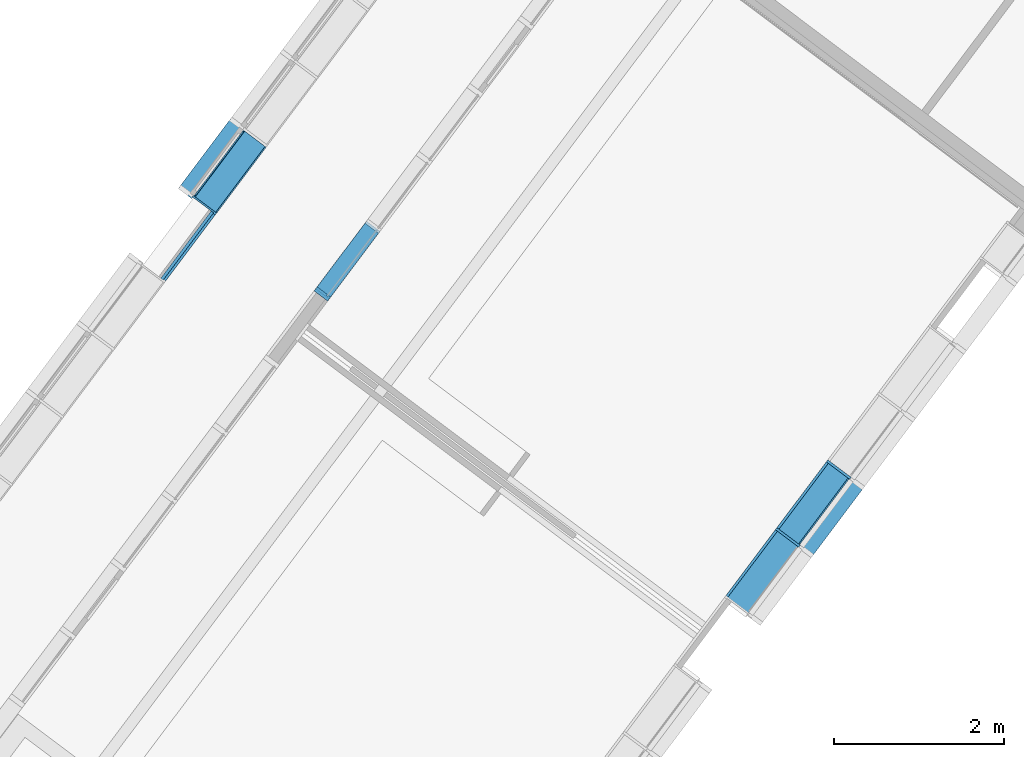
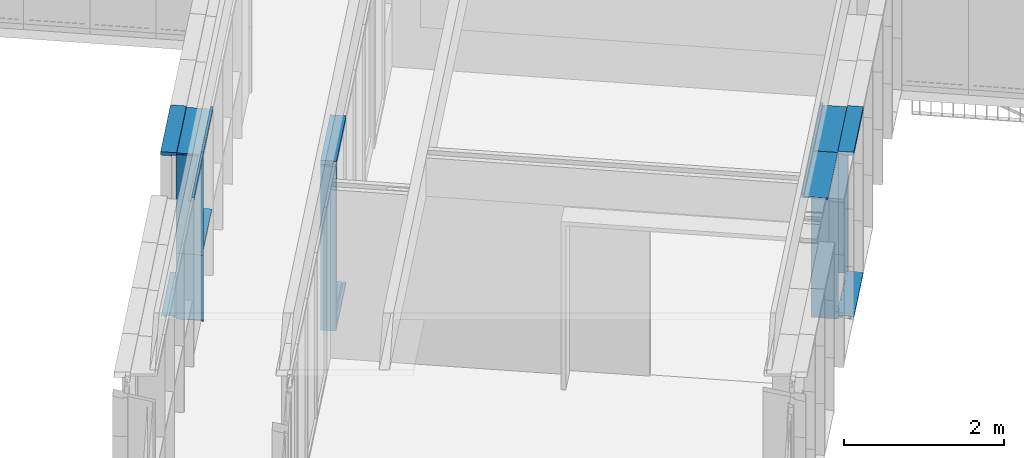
# One storey, part 50 of 243: 16 members, 5 elements without a shape of their own.
"""IFC2X3 building model written with IfcOpenShell, lengths in metres."""

from ifc_helpers import new_model, entity, si_unit, converted_unit, derived_unit, direction, frame, frame_2d, origin, place, context, subcontext, project, spatial, polyline, circle_curve, parameter, trimmed, segment, composite_curve, rectangle, outline, extrude, source, transform, mapped, material, type_object, type_shapes, element, aggregate, save


model = new_model("IFC2X3")

# Units and contexts
model_context = context("Model", 3, precision=1e-05, world=origin(), true_north=direction((6.123031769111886e-17, 1.0)))
body_context = subcontext(model_context, "Body", "Model", "MODEL_VIEW")
ifc_project = project(units=[si_unit("LENGTHUNIT", "METRE"), si_unit("AREAUNIT", "SQUARE_METRE"), si_unit("VOLUMEUNIT", "CUBIC_METRE"), converted_unit("PLANEANGLEUNIT", "DEGREE", entity("IfcRatioMeasure", 0.017453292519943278), si_unit("PLANEANGLEUNIT", "RADIAN"), dimensions=[0, 0, 0, 0, 0, 0, 0]), si_unit("MASSUNIT", "GRAM", prefix="KILO"), derived_unit("MASSDENSITYUNIT", [(si_unit("MASSUNIT", "GRAM", prefix="KILO"), 1), (si_unit("LENGTHUNIT", "METRE"), -3)]), derived_unit("IONCONCENTRATIONUNIT", [(si_unit("MASSUNIT", "GRAM", prefix="KILO"), 1), (si_unit("LENGTHUNIT", "METRE"), -3)]), derived_unit("MOMENTOFINERTIAUNIT", [(si_unit("LENGTHUNIT", "METRE"), 4)]), si_unit("TIMEUNIT", "SECOND"), si_unit("FREQUENCYUNIT", "HERTZ"), si_unit("THERMODYNAMICTEMPERATUREUNIT", "DEGREE_CELSIUS"), derived_unit("THERMALTRANSMITTANCEUNIT", [(si_unit("MASSUNIT", "GRAM", prefix="KILO"), 1), (si_unit("THERMODYNAMICTEMPERATUREUNIT", "KELVIN"), -1), (si_unit("TIMEUNIT", "SECOND"), -3)]), derived_unit("THERMALCONDUCTANCEUNIT", [(si_unit("MASSUNIT", "GRAM", prefix="KILO"), 1), (si_unit("THERMODYNAMICTEMPERATUREUNIT", "KELVIN"), -1), (si_unit("TIMEUNIT", "SECOND"), -3), (si_unit("LENGTHUNIT", "METRE"), 1)]), derived_unit("VOLUMETRICFLOWRATEUNIT", [(si_unit("LENGTHUNIT", "METRE"), 3), (si_unit("TIMEUNIT", "SECOND"), -1)]), derived_unit("MASSFLOWRATEUNIT", [(si_unit("MASSUNIT", "GRAM", prefix="KILO"), 1), (si_unit("TIMEUNIT", "SECOND"), -1)]), derived_unit("ROTATIONALFREQUENCYUNIT", [(si_unit("TIMEUNIT", "SECOND"), -1)]), si_unit("ELECTRICCURRENTUNIT", "AMPERE"), si_unit("ELECTRICVOLTAGEUNIT", "VOLT"), si_unit("POWERUNIT", "WATT"), si_unit("FORCEUNIT", "NEWTON", prefix="KILO"), si_unit("ILLUMINANCEUNIT", "LUX"), si_unit("LUMINOUSFLUXUNIT", "LUMEN"), si_unit("LUMINOUSINTENSITYUNIT", "CANDELA"), derived_unit("USERDEFINED", [(si_unit("MASSUNIT", "GRAM", prefix="KILO"), -1), (si_unit("LENGTHUNIT", "METRE"), -2), (si_unit("TIMEUNIT", "SECOND"), 3), (si_unit("LUMINOUSFLUXUNIT", "LUMEN"), 1)]), derived_unit("USERDEFINED", [(si_unit("MASSUNIT", "GRAM", prefix="KILO"), 1), (si_unit("TIMEUNIT", "SECOND"), -3), (si_unit("LENGTHUNIT", "METRE"), 3), (si_unit("ELECTRICCURRENTUNIT", "AMPERE"), -2)]), derived_unit("SOUNDPOWERUNIT", [(si_unit("MASSUNIT", "GRAM", prefix="KILO"), 1), (si_unit("TIMEUNIT", "SECOND"), -3), (si_unit("LENGTHUNIT", "METRE"), 2)]), derived_unit("SOUNDPRESSUREUNIT", [(si_unit("MASSUNIT", "GRAM", prefix="KILO"), 1), (si_unit("LENGTHUNIT", "METRE"), -1), (si_unit("TIMEUNIT", "SECOND"), -2)]), derived_unit("LINEARVELOCITYUNIT", [(si_unit("LENGTHUNIT", "METRE"), 1), (si_unit("TIMEUNIT", "SECOND"), -1)]), si_unit("PRESSUREUNIT", "PASCAL"), derived_unit("USERDEFINED", [(si_unit("MASSUNIT", "GRAM", prefix="KILO"), 1), (si_unit("LENGTHUNIT", "METRE"), -2), (si_unit("TIMEUNIT", "SECOND"), -2)]), derived_unit("LINEARFORCEUNIT", [(si_unit("MASSUNIT", "GRAM", prefix="KILO"), 1), (si_unit("TIMEUNIT", "SECOND"), -2)]), derived_unit("PLANARFORCEUNIT", [(si_unit("MASSUNIT", "GRAM", prefix="KILO"), 1), (si_unit("LENGTHUNIT", "METRE"), -1), (si_unit("TIMEUNIT", "SECOND"), -2)]), derived_unit("SPECIFICHEATCAPACITYUNIT", [(si_unit("THERMODYNAMICTEMPERATUREUNIT", "KELVIN"), -1), (si_unit("LENGTHUNIT", "METRE"), 2), (si_unit("TIMEUNIT", "SECOND"), -2)]), derived_unit("HEATINGVALUEUNIT", [(si_unit("LENGTHUNIT", "METRE"), 2), (si_unit("TIMEUNIT", "SECOND"), -2)]), derived_unit("VAPORPERMEABILITYUNIT", [(si_unit("LENGTHUNIT", "METRE"), -1), (si_unit("TIMEUNIT", "SECOND"), 1)]), derived_unit("DYNAMICVISCOSITYUNIT", [(si_unit("MASSUNIT", "GRAM", prefix="KILO"), 1), (si_unit("TIMEUNIT", "SECOND"), -1), (si_unit("LENGTHUNIT", "METRE"), -1)]), derived_unit("THERMALEXPANSIONCOEFFICIENTUNIT", [(si_unit("THERMODYNAMICTEMPERATUREUNIT", "KELVIN"), -1)]), derived_unit("MODULUSOFELASTICITYUNIT", [(si_unit("MASSUNIT", "GRAM", prefix="KILO"), 1), (si_unit("LENGTHUNIT", "METRE"), -1), (si_unit("TIMEUNIT", "SECOND"), -2)]), derived_unit("ISOTHERMALMOISTURECAPACITYUNIT", [(si_unit("LENGTHUNIT", "METRE"), 3), (si_unit("MASSUNIT", "GRAM", prefix="KILO"), -1)]), derived_unit("MOISTUREDIFFUSIVITYUNIT", [(si_unit("TIMEUNIT", "SECOND"), -1), (si_unit("LENGTHUNIT", "METRE"), 2)])], contexts=[model_context])

# Site, building, storey
site_placement = place(None, frame((0.0, 0.0, 235.0), z_axis=(0.0, 0.0, 1.0), x_axis=(-0.7996477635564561, 0.6004693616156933, 0.0)))
site = spatial("IfcSite", under=ifc_project, at=site_placement, Name="Default", CompositionType="ELEMENT")
building_placement = place(site_placement, origin())
building = spatial("IfcBuilding", under=site, at=building_placement, CompositionType="ELEMENT")
storey_placement = place(building_placement, origin())
storey = spatial("IfcBuildingStorey", under=building, at=storey_placement, Name="P0- Escola", CompositionType="ELEMENT", Elevation=0.0)

# Curtain wall, members
curtain_wall_type_1 = type_object("IfcCurtainWallType", Name="Muro cortina:MC- INT- a1", PredefinedType="NOTDEFINED")
curtain_wall_1_placement = place(storey_placement, origin())
curtain_wall_1 = element("IfcCurtainWall", 1, at=curtain_wall_1_placement, inside=storey, type_object=curtain_wall_type_1, Name="Muro cortina:MC- INT- a1", ObjectType="Muro cortina:MC- INT- a1")
ifc_material_1 = material(Name="_Fusta massisa- T1")
member_type_1 = type_object("IfcMemberType", Name="Montante rectangular:MC- Fusta- 20x6 cm- Dreta", PredefinedType="MULLION", material=ifc_material_1)
shared_shape_1 = source(origin(), body_context, "Body", "SweptSolid", [
    extrude(outline(polyline([(-0.07000000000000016, -0.041249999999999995), (0.13000000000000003, -0.041249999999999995), (0.13000000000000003, 0.01875), (-0.019999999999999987, 0.01875), (-0.019999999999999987, 0.00375), (-0.04000000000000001, 0.00375), (-0.03999999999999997, 0.01875), (-0.06999999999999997, 0.01875), (-0.07000000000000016, -0.041249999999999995)])), frame((0.011250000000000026, -0.02999999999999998, -2.5050000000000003), z_axis=(0.0, 0.0, 1.0), x_axis=(0.0, -1.0, 0.0)), (0.0, 0.0, 1.0), 2.5050000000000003),
])
type_shapes(member_type_1, [shared_shape_1])
member_1_placement = place(curtain_wall_1_placement, frame((60.020147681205, -30.415189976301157, 0.0), z_axis=(0.0, 0.0, -1.0), x_axis=(0.0, -1.0, 0.0)))
member_1 = element("IfcMember", 2, at=member_1_placement, type_object=member_type_1, material=ifc_material_1, Name="Montante rectangular:MC- Fusta- 20x6 cm- Dreta", ObjectType="Montante rectangular:MC- Fusta- 20x6 cm- Dreta", context=body_context, shape_type="MappedRepresentation", body=[
    mapped(shared_shape_1, transform((0.0, 0.0, 0.0), scale=1.0)),
])
member_type_2 = type_object("IfcMemberType", Name="Montante rectangular:MC- Fusta- 20x6 cm- Esquerra", PredefinedType="MULLION", material=ifc_material_1)
shared_shape_2 = source(origin(), body_context, "Body", "SweptSolid", [
    extrude(outline(polyline([(-0.07000000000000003, -0.01875000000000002), (-0.04000000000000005, -0.01875000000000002), (-0.04000000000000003, -0.0037500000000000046), (-0.020000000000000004, -0.0037500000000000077), (-0.02, -0.018750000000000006), (0.13, -0.018749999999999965), (0.12999999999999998, 0.04125000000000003), (-0.06999999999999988, 0.04124999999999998), (-0.07000000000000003, -0.01875000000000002)])), frame((-0.041249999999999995, -0.03, -1.0), z_axis=(0.0, 0.0, 1.0), x_axis=(0.0, -1.0, 0.0)), (0.0, 0.0, 1.0), 0.9999999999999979),
])
type_shapes(member_type_2, [shared_shape_2])
member_2_placement = place(curtain_wall_1_placement, frame((60.020147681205, -31.415189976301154, 2.565), z_axis=(0.0, -1.0, 0.0), x_axis=(0.0, 0.0, 1.0)))
member_2 = element("IfcMember", 3, at=member_2_placement, type_object=member_type_2, material=ifc_material_1, Name="Montante rectangular:MC- Fusta- 20x6 cm- Esquerra", ObjectType="Montante rectangular:MC- Fusta- 20x6 cm- Esquerra", context=body_context, shape_type="MappedRepresentation", body=[
    mapped(shared_shape_2, transform((0.0, 0.0, 0.0), scale=1.0)),
])
member_type_3 = type_object("IfcMemberType", Name="Montante rectangular:MC- Fusta- 20x6 cm- Inferior", PredefinedType="MULLION", material=ifc_material_1)
shared_shape_3 = source(origin(), body_context, "Body", "SweptSolid", [
    extrude(outline(polyline([(-0.06999999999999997, -0.018750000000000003), (-0.039999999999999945, -0.018750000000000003), (-0.03999999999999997, -0.003750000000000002), (-0.019999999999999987, -0.0037500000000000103), (-0.019999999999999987, -0.018750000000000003), (0.13000000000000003, -0.018750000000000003), (0.13000000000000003, 0.041249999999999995), (-0.07000000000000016, 0.041249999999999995), (-0.06999999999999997, -0.018750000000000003)])), frame((-0.041249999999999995, -0.02999999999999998, -0.9399999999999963), z_axis=(0.0, 0.0, 1.0), x_axis=(0.0, -1.0, 0.0)), (0.0, 0.0, 1.0), 0.9399999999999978),
])
type_shapes(member_type_3, [shared_shape_3])
member_3_placement = place(curtain_wall_1_placement, frame((60.020147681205, -30.445189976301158, 0.0), z_axis=(0.0, 1.0, 0.0), x_axis=(0.0, 0.0, -1.0)))
member_3 = element("IfcMember", 4, at=member_3_placement, type_object=member_type_3, material=ifc_material_1, Name="Montante rectangular:MC- Fusta- 20x6 cm- Inferior", ObjectType="Montante rectangular:MC- Fusta- 20x6 cm- Inferior", context=body_context, shape_type="MappedRepresentation", body=[
    mapped(shared_shape_3, transform((0.0, 0.0, 0.0), scale=1.0)),
])
aggregate(curtain_wall_1, [member_2, member_1, member_3])

curtain_wall_type_2 = type_object("IfcCurtainWallType", Name="Muro cortina:MC- EXT- MC2", PredefinedType="NOTDEFINED")
curtain_wall_2_placement = place(storey_placement, origin())
curtain_wall_2 = element("IfcCurtainWall", 5, at=curtain_wall_2_placement, inside=storey, type_object=curtain_wall_type_2, Name="Muro cortina:MC- EXT- MC2", ObjectType="Muro cortina:MC- EXT- MC2")
ifc_material_2 = material(Name="_Alumini- T1- Perfil")
member_type_4 = type_object("IfcMemberType", Name="Montante rectangular:MC- Alu- 140x52,5 cm- Fa patis- Superior", PredefinedType="MULLION", material=ifc_material_2)
shared_shape_4 = source(origin(), body_context, "Body", "SweptSolid", [
    extrude(outline(polyline([(-0.11366666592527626, -0.021249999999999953), (0.026333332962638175, -0.021249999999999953), (0.026333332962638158, -0.010000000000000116), (0.0873333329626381, -0.010000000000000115), (0.0873333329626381, 0.03125000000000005), (-0.11366666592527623, 0.031250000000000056), (-0.11366666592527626, -0.021249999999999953)])), frame((-0.031250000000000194, 0.0273333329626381, -1.0), z_axis=(0.0, 0.0, 1.0), x_axis=(0.0, -1.0, 0.0)), (0.0, 0.0, 1.0), 0.9999999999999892),
])
type_shapes(member_type_4, [shared_shape_4])
member_4_placement = place(curtain_wall_2_placement, frame((53.74514768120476, -32.415191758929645, 2.545), z_axis=(0.0, -1.0, 0.0), x_axis=(0.0, 0.0, 1.0)))
member_4 = element("IfcMember", 6, at=member_4_placement, type_object=member_type_4, material=ifc_material_2, Name="Montante rectangular:MC- Alu- 140x52,5 cm- Fa patis- Superior", ObjectType="Montante rectangular:MC- Alu- 140x52,5 cm- Fa patis- Superior", context=body_context, shape_type="MappedRepresentation", body=[
    mapped(shared_shape_4, transform((0.0, 0.0, 0.0), scale=1.0)),
])
member_type_5 = type_object("IfcMemberType", Name="Montante rectangular:MC- Alu- 140x52,5 cm- Fa patis- inferior", PredefinedType="MULLION", material=ifc_material_2)
shared_shape_5 = source(origin(), body_context, "Body", "SweptSolid", [
    extrude(outline(composite_curve([segment(polyline([(0.1278672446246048, -0.02586710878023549), (0.14416724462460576, -0.025867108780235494)]), True, "CONTINUOUS"), segment(polyline([(0.14416724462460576, -0.025867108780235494), (0.1441672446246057, 0.009132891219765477)]), True, "CONTINUOUS"), segment(polyline([(0.1441672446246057, 0.009132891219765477), (0.06786724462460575, 0.009132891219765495)]), True, "CONTINUOUS"), segment(polyline([(0.06786724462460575, 0.009132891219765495), (0.06786724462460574, -0.021159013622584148)]), True, "CONTINUOUS"), segment(polyline([(0.06786724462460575, -0.02115901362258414), (-0.030132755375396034, -0.012332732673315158)]), True, "CONTINUOUS"), segment(polyline([(-0.03013275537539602, -0.012332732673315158), (-0.030132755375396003, 0.027132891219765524)]), True, "CONTINUOUS"), segment(polyline([(-0.030132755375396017, 0.02713289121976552), (-0.0021327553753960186, 0.02713289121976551)]), True, "CONTINUOUS"), segment(polyline([(-0.0021327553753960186, 0.027132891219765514), (-0.0021327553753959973, 0.029132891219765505)]), True, "CONTINUOUS"), segment(polyline([(-0.0021327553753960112, 0.029132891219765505), (-0.032132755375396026, 0.029132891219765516)]), True, "CONTINUOUS"), segment(polyline([(-0.032132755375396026, 0.029132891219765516), (-0.03213275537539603, -0.012152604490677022)]), True, "CONTINUOUS"), segment(polyline([(-0.03213275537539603, -0.012152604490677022), (-0.0701327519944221, -0.008730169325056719)]), True, "CONTINUOUS"), segment(polyline([(-0.0701327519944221, -0.008730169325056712), (-0.0701327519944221, 0.005766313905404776)]), True, "CONTINUOUS"), segment(trimmed(circle_curve(frame_2d((-0.0696327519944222, 0.0057663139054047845), x_axis=(-1.0, 0.0)), 0.0004999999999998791), [parameter(269.999999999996)], [parameter(0.0)], True, "PARAMETER"), False, "CONTINUOUS"), segment(polyline([(-0.0696327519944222, 0.00626631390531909), (-0.06213275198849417, 0.006266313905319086)]), True, "CONTINUOUS"), segment(polyline([(-0.06213275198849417, 0.006266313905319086), (-0.06213275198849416, 0.008266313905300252)]), True, "CONTINUOUS"), segment(polyline([(-0.06213275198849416, 0.008266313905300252), (-0.07013275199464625, 0.008266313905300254)]), True, "CONTINUOUS"), segment(trimmed(circle_curve(frame_2d((-0.07013275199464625, 0.006266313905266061), x_axis=(0.0, 1.0)), 0.0020000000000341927), [parameter(0.0)], [parameter(90.00000002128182)], True, "PARAMETER"), True, "CONTINUOUS"), segment(polyline([(-0.07213275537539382, 0.006266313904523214), (-0.07213275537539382, -0.008730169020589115)]), True, "CONTINUOUS"), segment(trimmed(circle_curve(frame_2d((-0.07013275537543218, -0.008730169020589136), x_axis=(-1.0, 0.0)), 0.0019999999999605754), [parameter(0.0)], [parameter(84.85359280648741)], True, "PARAMETER"), True, "CONTINUOUS"), segment(polyline([(-0.07031215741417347, -0.01072210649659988), (0.06786724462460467, -0.023167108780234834)]), True, "CONTINUOUS"), segment(polyline([(0.06786724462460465, -0.023167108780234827), (0.12786724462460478, -0.023167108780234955)]), True, "CONTINUOUS"), segment(polyline([(0.12786724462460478, -0.023167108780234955), (0.1278672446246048, -0.02586710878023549)]), True, "CONTINUOUS")], self_intersect=False)), frame((-0.029132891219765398, 0.06786724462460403, -0.9737499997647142), z_axis=(0.0, 0.0, 1.0), x_axis=(0.0, -1.0, 0.0)), (0.0, 0.0, 1.0), 0.9737499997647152),
])
type_shapes(member_type_5, [shared_shape_5])
member_5_placement = place(curtain_wall_2_placement, frame((53.74514768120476, -31.441441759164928, -0.02), z_axis=(0.0, 1.0, 0.0), x_axis=(0.0, 0.0, -1.0)))
member_5 = element("IfcMember", 7, at=member_5_placement, type_object=member_type_5, material=ifc_material_2, Name="Montante rectangular:MC- Alu- 140x52,5 cm- Fa patis- inferior", ObjectType="Montante rectangular:MC- Alu- 140x52,5 cm- Fa patis- inferior", context=body_context, shape_type="MappedRepresentation", body=[
    mapped(shared_shape_5, transform((0.0, 0.0, 0.0), scale=1.0)),
])
aggregate(curtain_wall_2, [member_5, member_4])

curtain_wall_type_3 = type_object("IfcCurtainWallType", Name="Muro cortina:MC- INT- k7- Aules infantil", PredefinedType="NOTDEFINED")
curtain_wall_3_placement = place(storey_placement, origin())
curtain_wall_3 = element("IfcCurtainWall", 8, at=curtain_wall_3_placement, inside=storey, type_object=curtain_wall_type_3, Name="Muro cortina:MC- INT- k7- Aules infantil", ObjectType="Muro cortina:MC- INT- k7- Aules infantil")
member_type_6 = type_object("IfcMemberType", Name="Montante rectangular:MC- Fusta- 35x3 cm- Centre", PredefinedType="MULLION", material=ifc_material_1)
shared_shape_6 = source(origin(), body_context, "Body", "SweptSolid", [
    extrude(rectangle(XDim=0.3450000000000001, YDim=0.030000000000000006, at=frame_2d((0.0, 1.3964523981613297e-16), x_axis=(1.0, 0.0))), frame((0.0, 0.07750000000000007, -2.5049999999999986), z_axis=(0.0, 0.0, 1.0), x_axis=(0.0, -1.0, 0.0)), (0.0, 0.0, 1.0), 2.5049999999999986),
])
type_shapes(member_type_6, [shared_shape_6])
member_6_placement = place(curtain_wall_3_placement, frame((54.045147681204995, -31.415191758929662, 0.0), z_axis=(0.0, 0.0, -1.0), x_axis=(0.0, -1.0, 0.0)))
member_6 = element("IfcMember", 9, at=member_6_placement, type_object=member_type_6, material=ifc_material_1, Name="Montante rectangular:MC- Fusta- 35x3 cm- Centre", ObjectType="Montante rectangular:MC- Fusta- 35x3 cm- Centre", context=body_context, shape_type="MappedRepresentation", body=[
    mapped(shared_shape_6, transform((0.0, 0.0, 0.0), scale=1.0)),
])
member_7_placement = place(curtain_wall_3_placement, frame((54.045147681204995, -32.41519175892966, 0.0), z_axis=(0.0, 0.0, -1.0), x_axis=(0.0, -1.0, 0.0)))
member_7 = element("IfcMember", 10, at=member_7_placement, type_object=member_type_6, material=ifc_material_1, Name="Montante rectangular:MC- Fusta- 35x3 cm- Centre", ObjectType="Montante rectangular:MC- Fusta- 35x3 cm- Centre", context=body_context, shape_type="MappedRepresentation", body=[
    mapped(shared_shape_6, transform((0.0, 0.0, 0.0), scale=1.0)),
])
member_type_7 = type_object("IfcMemberType", Name="Montante rectangular:MC- Fusta- 35x3 cm- Pati aules- Remat superior", PredefinedType="MULLION", material=ifc_material_1)
shared_shape_7 = source(origin(), body_context, "Body", "SweptSolid", [
    extrude(outline(polyline([(-0.21333333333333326, -0.02666666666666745), (0.1216666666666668, -0.02666666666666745), (0.12166666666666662, 0.03333333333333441), (0.09166666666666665, 0.03333333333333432), (0.09166666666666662, -0.006666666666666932), (-0.2133333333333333, -0.006666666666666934), (-0.21333333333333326, -0.02666666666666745)])), frame((-0.033333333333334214, 0.026666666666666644, -1.0), z_axis=(0.0, 0.0, 1.0), x_axis=(0.0, -1.0, 0.0)), (0.0, 0.0, 1.0), 0.9999999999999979),
])
type_shapes(member_type_7, [shared_shape_7])
member_8_placement = place(curtain_wall_3_placement, frame((54.045147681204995, -32.41519175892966, 2.565), z_axis=(0.0, -1.0, 0.0), x_axis=(0.0, 0.0, 1.0)))
member_8 = element("IfcMember", 11, at=member_8_placement, type_object=member_type_7, material=ifc_material_1, Name="Montante rectangular:MC- Fusta- 35x3 cm- Pati aules- Remat superior", ObjectType="Montante rectangular:MC- Fusta- 35x3 cm- Pati aules- Remat superior", context=body_context, shape_type="MappedRepresentation", body=[
    mapped(shared_shape_7, transform((0.0, 0.0, 0.0), scale=1.0)),
])
member_type_8 = type_object("IfcMemberType", Name="Montante rectangular:MC- Fusta- 35x3 cm- Pati aules- Remat superior", PredefinedType="MULLION", material=ifc_material_1)
shared_shape_8 = source(origin(), body_context, "Body", "SweptSolid", [
    extrude(outline(polyline([(-0.21333333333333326, -0.02666666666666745), (0.1216666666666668, -0.02666666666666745), (0.12166666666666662, 0.03333333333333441), (0.09166666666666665, 0.03333333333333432), (0.09166666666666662, -0.006666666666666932), (-0.2133333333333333, -0.006666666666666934), (-0.21333333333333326, -0.02666666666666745)])), frame((-0.033333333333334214, 0.026666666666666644, -1.0), z_axis=(0.0, 0.0, 1.0), x_axis=(0.0, -1.0, 0.0)), (0.0, 0.0, 1.0), 0.9999999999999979),
])
type_shapes(member_type_8, [shared_shape_8])
member_9_placement = place(curtain_wall_3_placement, frame((54.045147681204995, -31.415191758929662, 2.565), z_axis=(0.0, -1.0, 0.0), x_axis=(0.0, 0.0, 1.0)))
member_9 = element("IfcMember", 12, at=member_9_placement, type_object=member_type_8, material=ifc_material_1, Name="Montante rectangular:MC- Fusta- 35x3 cm- Pati aules- Remat superior", ObjectType="Montante rectangular:MC- Fusta- 35x3 cm- Pati aules- Remat superior", context=body_context, shape_type="MappedRepresentation", body=[
    mapped(shared_shape_8, transform((0.0, 0.0, 0.0), scale=1.0)),
])
aggregate(curtain_wall_3, [member_9, member_6, member_8, member_7])

curtain_wall_type_4 = type_object("IfcCurtainWallType", Name="Muro cortina:MC- INT- k2", PredefinedType="NOTDEFINED")
curtain_wall_4_placement = place(storey_placement, origin())
curtain_wall_4 = element("IfcCurtainWall", 13, at=curtain_wall_4_placement, inside=storey, type_object=curtain_wall_type_4, Name="Muro cortina:MC- INT- k2", ObjectType="Muro cortina:MC- INT- k2")
member_type_9 = type_object("IfcMemberType", Name="Montante rectangular:MC- Fusta- 35x3 cm- Pati aules- Remat superior", PredefinedType="MULLION", material=ifc_material_1)
shared_shape_9 = source(origin(), body_context, "Body", "SweptSolid", [
    extrude(outline(polyline([(-0.12166666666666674, -0.02666666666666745), (0.21333333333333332, -0.02666666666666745), (0.2133333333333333, -0.006666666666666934), (-0.09166666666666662, -0.006666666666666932), (-0.09166666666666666, 0.03333333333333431), (-0.12166666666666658, 0.03333333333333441), (-0.12166666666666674, -0.02666666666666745)])), frame((-0.033333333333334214, -0.026666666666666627, -1.0), z_axis=(0.0, 0.0, 1.0), x_axis=(0.0, -1.0, 0.0)), (0.0, 0.0, 1.0), 0.9999999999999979),
])
type_shapes(member_type_9, [shared_shape_9])
member_10_placement = place(curtain_wall_4_placement, frame((61.745147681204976, -31.41519175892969, 2.565), z_axis=(0.0, -1.0, 0.0), x_axis=(0.0, 0.0, 1.0)))
member_10 = element("IfcMember", 14, at=member_10_placement, type_object=member_type_9, material=ifc_material_1, Name="Montante rectangular:MC- Fusta- 35x3 cm- Pati aules- Remat superior", ObjectType="Montante rectangular:MC- Fusta- 35x3 cm- Pati aules- Remat superior", context=body_context, shape_type="MappedRepresentation", body=[
    mapped(shared_shape_9, transform((0.0, 0.0, 0.0), scale=1.0)),
])
member_type_10 = type_object("IfcMemberType", Name="Montante rectangular:MC- Fusta- 35x3 cm- Pati aules- Remat superior pilar", PredefinedType="MULLION", material=ifc_material_1)
shared_shape_10 = source(origin(), body_context, "Body", "SweptSolid", [
    extrude(outline(polyline([(-0.03166666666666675, -0.02666666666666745), (0.03333333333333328, -0.02666666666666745), (0.03333333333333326, -0.00666666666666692), (-0.0016666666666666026, -0.006666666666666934), (-0.0016666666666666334, 0.03333333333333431), (-0.03166666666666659, 0.03333333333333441), (-0.03166666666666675, -0.02666666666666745)])), frame((-0.03333333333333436, 0.06333333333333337, -1.0), z_axis=(0.0, 0.0, 1.0), x_axis=(0.0, -1.0, 0.0)), (0.0, 0.0, 1.0), 0.9999999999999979),
])
type_shapes(member_type_10, [shared_shape_10])
member_11_placement = place(curtain_wall_4_placement, frame((61.745147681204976, -30.415191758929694, 2.565), z_axis=(0.0, -1.0, 0.0), x_axis=(0.0, 0.0, 1.0)))
member_11 = element("IfcMember", 15, at=member_11_placement, type_object=member_type_10, material=ifc_material_1, Name="Montante rectangular:MC- Fusta- 35x3 cm- Pati aules- Remat superior pilar", ObjectType="Montante rectangular:MC- Fusta- 35x3 cm- Pati aules- Remat superior pilar", context=body_context, shape_type="MappedRepresentation", body=[
    mapped(shared_shape_10, transform((0.0, 0.0, 0.0), scale=1.0)),
])
member_type_11 = type_object("IfcMemberType", Name="Montante rectangular:MC- Fusta- 35x3 cm- Pati aules- Remat esquerra", PredefinedType="MULLION", material=ifc_material_1)
shared_shape_11 = source(origin(), body_context, "Body", "SweptSolid", [
    extrude(outline(polyline([(-0.12500000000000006, -0.013333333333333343), (-0.09500000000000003, -0.013333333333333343), (-0.09499999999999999, -0.0033333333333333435), (0.22000000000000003, -0.003333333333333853), (0.22000000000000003, 0.016666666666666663), (-0.12500000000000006, 0.01666666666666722), (-0.12500000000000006, -0.013333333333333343)])), frame((-0.00166666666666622, -0.03000000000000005, -1.0), z_axis=(0.0, 0.0, 1.0), x_axis=(0.0, -1.0, 0.0)), (0.0, 0.0, 1.0), 1.0),
])
type_shapes(member_type_11, [shared_shape_11])
member_12_placement = place(curtain_wall_4_placement, frame((61.745147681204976, -30.415191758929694, 0.0), z_axis=(0.0, 0.0, -1.0), x_axis=(0.0, -1.0, 0.0)))
member_12 = element("IfcMember", 16, at=member_12_placement, type_object=member_type_11, material=ifc_material_1, Name="Montante rectangular:MC- Fusta- 35x3 cm- Pati aules- Remat esquerra", ObjectType="Montante rectangular:MC- Fusta- 35x3 cm- Pati aules- Remat esquerra", context=body_context, shape_type="MappedRepresentation", body=[
    mapped(shared_shape_11, transform((0.0, 0.0, 0.0), scale=1.0)),
])
member_type_12 = type_object("IfcMemberType", Name="Montante rectangular:MC- Fusta- 35x3 cm- Pati aules- Prestatge", PredefinedType="MULLION", material=ifc_material_1)
shared_shape_12 = source(origin(), body_context, "Body", "SweptSolid", [
    extrude(rectangle(XDim=0.30000000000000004, YDim=0.03000000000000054, at=frame_2d((0.0, -1.231653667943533e-16), x_axis=(1.0, 0.0))), frame((0.0, -0.07000000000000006, -0.9699999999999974), z_axis=(0.0, 0.0, 1.0), x_axis=(0.0, -1.0, 0.0)), (0.0, 0.0, 1.0), 0.969999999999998),
])
type_shapes(member_type_12, [shared_shape_12])
member_13_placement = place(curtain_wall_4_placement, frame((61.745147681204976, -31.40019175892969, 1.0), z_axis=(0.0, -1.0, 0.0), x_axis=(0.0, 0.0, 1.0)))
member_13 = element("IfcMember", 17, at=member_13_placement, type_object=member_type_12, material=ifc_material_1, Name="Montante rectangular:MC- Fusta- 35x3 cm- Pati aules- Prestatge", ObjectType="Montante rectangular:MC- Fusta- 35x3 cm- Pati aules- Prestatge", context=body_context, shape_type="MappedRepresentation", body=[
    mapped(shared_shape_12, transform((0.0, 0.0, 0.0), scale=1.0)),
])
member_type_13 = type_object("IfcMemberType", Name="Montante rectangular:MC- Fusta- 35x3 cm- Pati aules- Remat esquerra", PredefinedType="MULLION", material=ifc_material_1)
shared_shape_13 = source(origin(), body_context, "Body", "SweptSolid", [
    extrude(outline(polyline([(-0.12500000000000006, -0.013333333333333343), (-0.09500000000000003, -0.013333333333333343), (-0.09499999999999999, -0.0033333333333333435), (0.22000000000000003, -0.003333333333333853), (0.22000000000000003, 0.016666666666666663), (-0.12500000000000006, 0.01666666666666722), (-0.12500000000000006, -0.013333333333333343)])), frame((-0.00166666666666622, -0.03000000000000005, -1.504999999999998), z_axis=(0.0, 0.0, 1.0), x_axis=(0.0, -1.0, 0.0)), (0.0, 0.0, 1.0), 1.504999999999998),
])
type_shapes(member_type_13, [shared_shape_13])
member_14_placement = place(curtain_wall_4_placement, frame((61.745147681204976, -30.415191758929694, 1.0), z_axis=(0.0, 0.0, -1.0), x_axis=(0.0, -1.0, 0.0)))
member_14 = element("IfcMember", 18, at=member_14_placement, type_object=member_type_13, material=ifc_material_1, Name="Montante rectangular:MC- Fusta- 35x3 cm- Pati aules- Remat esquerra", ObjectType="Montante rectangular:MC- Fusta- 35x3 cm- Pati aules- Remat esquerra", context=body_context, shape_type="MappedRepresentation", body=[
    mapped(shared_shape_13, transform((0.0, 0.0, 0.0), scale=1.0)),
])
aggregate(curtain_wall_4, [member_11, member_12, member_10, member_13, member_14])

curtain_wall_type_5 = type_object("IfcCurtainWallType", Name="Muro cortina:MC- EXT- MC5", PredefinedType="NOTDEFINED")
curtain_wall_5_placement = place(storey_placement, origin())
curtain_wall_5 = element("IfcCurtainWall", 19, at=curtain_wall_5_placement, inside=storey, type_object=curtain_wall_type_5, Name="Muro cortina:MC- EXT- MC5", ObjectType="Muro cortina:MC- EXT- MC5")
member_type_14 = type_object("IfcMemberType", Name="Montante rectangular:MC- Alu- 140x52,5 cm- Fa patis- inferior", PredefinedType="MULLION", material=ifc_material_2)
shared_shape_14 = source(origin(), body_context, "Body", "SweptSolid", [
    extrude(outline(composite_curve([segment(polyline([(-0.144167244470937, -0.02586710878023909), (-0.12786724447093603, -0.025867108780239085)]), True, "CONTINUOUS"), segment(polyline([(-0.12786724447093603, -0.025867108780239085), (-0.12786724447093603, -0.02316710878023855)]), True, "CONTINUOUS"), segment(polyline([(-0.12786724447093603, -0.02316710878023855), (-0.0678672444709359, -0.02316710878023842)]), True, "CONTINUOUS"), segment(polyline([(-0.0678672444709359, -0.02316710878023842), (0.07031215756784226, -0.010722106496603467)]), True, "CONTINUOUS"), segment(trimmed(circle_curve(frame_2d((0.07013275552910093, -0.008730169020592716), x_axis=(0.0897010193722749, -0.9959687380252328)), 0.0019999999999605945), [parameter(0.0)], [parameter(84.8535928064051)], True, "PARAMETER"), True, "CONTINUOUS"), segment(polyline([(0.07213275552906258, -0.00873016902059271), (0.07213275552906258, 0.0062663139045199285)]), True, "CONTINUOUS"), segment(trimmed(circle_curve(frame_2d((0.070132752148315, 0.006266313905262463), x_axis=(1.0, 0.0)), 0.002000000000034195), [parameter(0.0)], [parameter(90.00000002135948)], True, "PARAMETER"), True, "CONTINUOUS"), segment(polyline([(0.070132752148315, 0.00826631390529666), (0.06213275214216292, 0.008266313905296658)]), True, "CONTINUOUS"), segment(polyline([(0.06213275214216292, 0.008266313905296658), (0.06213275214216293, 0.006266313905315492)]), True, "CONTINUOUS"), segment(polyline([(0.06213275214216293, 0.006266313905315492), (0.06963275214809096, 0.006266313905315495)]), True, "CONTINUOUS"), segment(trimmed(circle_curve(frame_2d((0.06963275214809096, 0.005766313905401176), x_axis=(0.0, 1.0)), 0.0004999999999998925), [parameter(269.99999999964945)], [parameter(0.0)], True, "PARAMETER"), False, "CONTINUOUS"), segment(polyline([(0.07013275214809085, 0.0057663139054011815), (0.07013275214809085, -0.008730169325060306)]), True, "CONTINUOUS"), segment(polyline([(0.07013275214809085, -0.008730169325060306), (0.03213275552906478, -0.012152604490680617)]), True, "CONTINUOUS"), segment(polyline([(0.03213275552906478, -0.012152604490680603), (0.03213275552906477, 0.02913289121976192)]), True, "CONTINUOUS"), segment(polyline([(0.03213275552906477, 0.02913289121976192), (0.0021327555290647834, 0.02913289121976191)]), True, "CONTINUOUS"), segment(polyline([(0.0021327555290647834, 0.02913289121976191), (0.0021327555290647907, 0.027132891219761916)]), True, "CONTINUOUS"), segment(polyline([(0.0021327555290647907, 0.027132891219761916), (0.03013275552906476, 0.027132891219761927)]), True, "CONTINUOUS"), segment(polyline([(0.03013275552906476, 0.02713289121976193), (0.03013275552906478, -0.012332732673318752)]), True, "CONTINUOUS"), segment(polyline([(0.03013275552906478, -0.012332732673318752), (-0.06786724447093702, -0.021159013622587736)]), True, "CONTINUOUS"), segment(polyline([(-0.06786724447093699, -0.021159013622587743), (-0.067867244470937, 0.0091328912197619)]), True, "CONTINUOUS"), segment(polyline([(-0.06786724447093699, 0.0091328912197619), (-0.14416724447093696, 0.009132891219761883)]), True, "CONTINUOUS"), segment(polyline([(-0.14416724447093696, 0.009132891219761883), (-0.144167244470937, -0.02586710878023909)]), True, "CONTINUOUS")], self_intersect=False)), frame((-0.029132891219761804, -0.06786724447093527, -0.9474999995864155), z_axis=(0.0, 0.0, 1.0), x_axis=(0.0, -1.0, 0.0)), (0.0, 0.0, 1.0), 0.9474999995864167),
])
type_shapes(member_type_14, [shared_shape_14])
member_15_placement = place(curtain_wall_5_placement, frame((62.045147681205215, -30.441441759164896, -0.02), z_axis=(0.0, 1.0, 0.0), x_axis=(0.0, 0.0, -1.0)))
member_15 = element("IfcMember", 20, at=member_15_placement, type_object=member_type_14, material=ifc_material_2, Name="Montante rectangular:MC- Alu- 140x52,5 cm- Fa patis- inferior", ObjectType="Montante rectangular:MC- Alu- 140x52,5 cm- Fa patis- inferior", context=body_context, shape_type="MappedRepresentation", body=[
    mapped(shared_shape_14, transform((0.0, 0.0, 0.0), scale=1.0)),
])
member_type_15 = type_object("IfcMemberType", Name="Montante rectangular:MC- Alu- 140x52,5 cm- Fa patis- Superior", PredefinedType="MULLION", material=ifc_material_2)
shared_shape_15 = source(origin(), body_context, "Body", "SweptSolid", [
    extrude(outline(polyline([(-0.026333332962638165, -0.021249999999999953), (0.11366666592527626, -0.021249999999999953), (0.11366666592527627, 0.031250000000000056), (-0.08733333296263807, 0.03125000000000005), (-0.0873333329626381, -0.010000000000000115), (-0.026333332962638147, -0.010000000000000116), (-0.026333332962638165, -0.021249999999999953)])), frame((-0.031250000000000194, -0.02733333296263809, -1.0262500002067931), z_axis=(0.0, 0.0, 1.0), x_axis=(0.0, -1.0, 0.0)), (0.0, 0.0, 1.0), 1.0262500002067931),
])
type_shapes(member_type_15, [shared_shape_15])
member_16_placement = place(curtain_wall_5_placement, frame((62.045147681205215, -31.415191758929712, 2.545), z_axis=(0.0, -1.0, 0.0), x_axis=(0.0, 0.0, 1.0)))
member_16 = element("IfcMember", 21, at=member_16_placement, type_object=member_type_15, material=ifc_material_2, Name="Montante rectangular:MC- Alu- 140x52,5 cm- Fa patis- Superior", ObjectType="Montante rectangular:MC- Alu- 140x52,5 cm- Fa patis- Superior", context=body_context, shape_type="MappedRepresentation", body=[
    mapped(shared_shape_15, transform((0.0, 0.0, 0.0), scale=1.0)),
])
aggregate(curtain_wall_5, [member_16, member_15])

save(model, "model.ifc")
